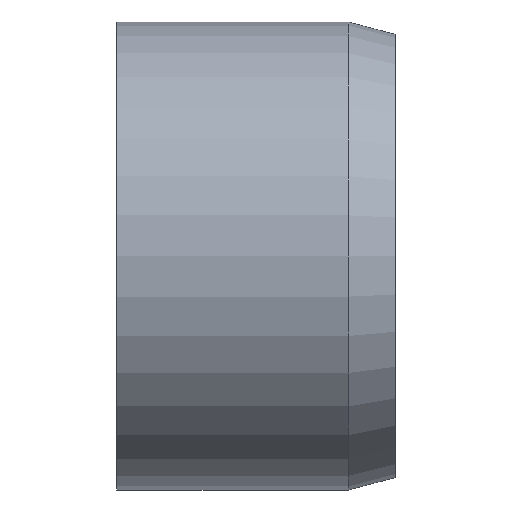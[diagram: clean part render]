
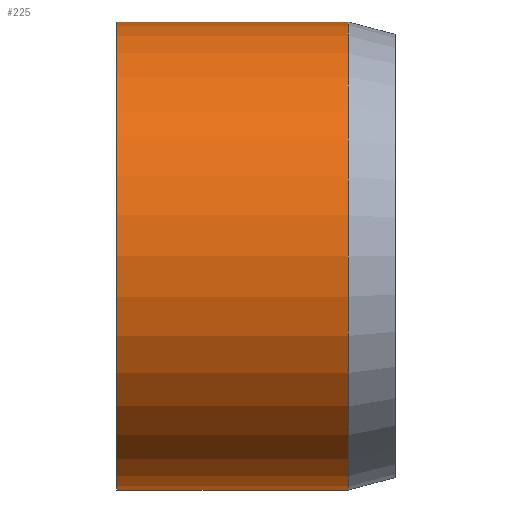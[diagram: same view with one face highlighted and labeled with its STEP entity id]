
A CAD part, left-side view. The second image highlights one B-rep face of the part: STEP entity #225.
In plain terms, the highlighted cylindrical face has radius 21 mm (diameter 42 mm), a partial arc.
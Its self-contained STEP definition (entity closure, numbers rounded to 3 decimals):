
#14 = VERTEX_POINT ( 'NONE', #85 ) ;
#20 = DIRECTION ( 'NONE',  ( 0., -1., 0. ) ) ;
#34 = CARTESIAN_POINT ( 'NONE',  ( 0., 4.2, -21. ) ) ;
#36 = VECTOR ( 'NONE', #20, 1000. ) ;
#37 = AXIS2_PLACEMENT_3D ( 'NONE', #355, #315, #64 ) ;
#40 = EDGE_CURVE ( 'NONE', #80, #450, #120, .T. ) ;
#44 = CARTESIAN_POINT ( 'NONE',  ( 0., 4.2, 21. ) ) ;
#52 = CARTESIAN_POINT ( 'NONE',  ( 0., 25., 0. ) ) ;
#58 = ORIENTED_EDGE ( 'NONE', *, *, #40, .F. ) ;
#59 = EDGE_CURVE ( 'NONE', #450, #210, #280, .T. ) ;
#63 = FACE_OUTER_BOUND ( 'NONE', #174, .T. ) ;
#64 = DIRECTION ( 'NONE',  ( 0., 0., -1. ) ) ;
#72 = ORIENTED_EDGE ( 'NONE', *, *, #87, .T. ) ;
#80 = VERTEX_POINT ( 'NONE', #153 ) ;
#81 = AXIS2_PLACEMENT_3D ( 'NONE', #52, #456, #191 ) ;
#85 = CARTESIAN_POINT ( 'NONE',  ( 0., 25., -21. ) ) ;
#87 = EDGE_CURVE ( 'NONE', #80, #14, #344, .T. ) ;
#110 = CARTESIAN_POINT ( 'NONE',  ( 0., 0., -21. ) ) ;
#120 = LINE ( 'NONE', #340, #36 ) ;
#153 = CARTESIAN_POINT ( 'NONE',  ( 0., 25., 21. ) ) ;
#174 = EDGE_LOOP ( 'NONE', ( #58, #72, #286, #282 ) ) ;
#183 = DIRECTION ( 'NONE',  ( 0., 0., -1. ) ) ;
#191 = DIRECTION ( 'NONE',  ( 0., 0., -1. ) ) ;
#209 = DIRECTION ( 'NONE',  ( 0., -1., 0. ) ) ;
#210 = VERTEX_POINT ( 'NONE', #34 ) ;
#220 = CARTESIAN_POINT ( 'NONE',  ( 0., 4.2, 0. ) ) ;
#225 = ADVANCED_FACE ( 'NONE', ( #63 ), #229, .T. ) ;
#229 = CYLINDRICAL_SURFACE ( 'NONE', #37, 21. ) ;
#256 = DIRECTION ( 'NONE',  ( 0., -1., 0. ) ) ;
#280 = CIRCLE ( 'NONE', #380, 21. ) ;
#282 = ORIENTED_EDGE ( 'NONE', *, *, #59, .F. ) ;
#285 = EDGE_CURVE ( 'NONE', #14, #210, #410, .T. ) ;
#286 = ORIENTED_EDGE ( 'NONE', *, *, #285, .T. ) ;
#315 = DIRECTION ( 'NONE',  ( 0., -1., 0. ) ) ;
#321 = VECTOR ( 'NONE', #209, 1000. ) ;
#340 = CARTESIAN_POINT ( 'NONE',  ( 0., 0., 21. ) ) ;
#344 = CIRCLE ( 'NONE', #81, 21. ) ;
#355 = CARTESIAN_POINT ( 'NONE',  ( 0., 0., 0. ) ) ;
#380 = AXIS2_PLACEMENT_3D ( 'NONE', #220, #256, #183 ) ;
#410 = LINE ( 'NONE', #110, #321 ) ;
#450 = VERTEX_POINT ( 'NONE', #44 ) ;
#456 = DIRECTION ( 'NONE',  ( 0., -1., 0. ) ) ;
